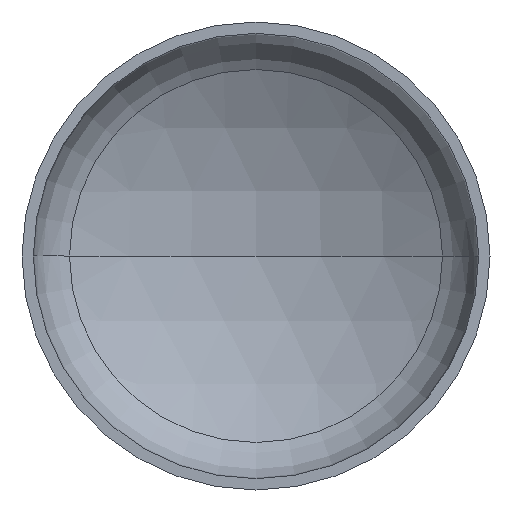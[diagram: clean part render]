
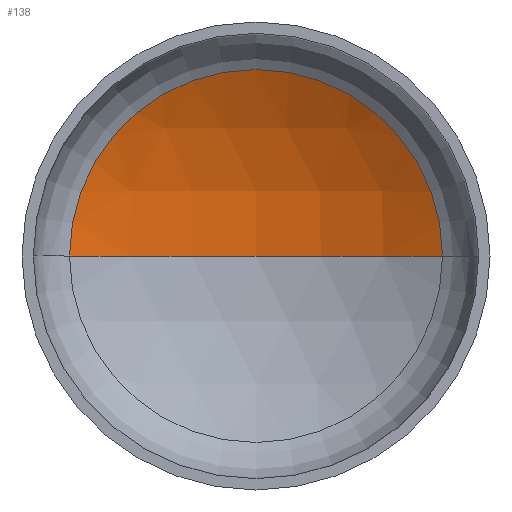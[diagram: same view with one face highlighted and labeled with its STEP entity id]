
A CAD part, front view. The second image highlights one B-rep face of the part: STEP entity #138.
In plain terms, the highlighted spherical face has radius 1920 mm.
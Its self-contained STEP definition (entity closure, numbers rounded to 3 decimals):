
#22 = VERTEX_POINT ( 'NONE', #254 ) ;
#26 = ORIENTED_EDGE ( 'NONE', *, *, #339, .T. ) ;
#28 = AXIS2_PLACEMENT_3D ( 'NONE', #405, #202, #207 ) ;
#35 = AXIS2_PLACEMENT_3D ( 'NONE', #411, #261, #100 ) ;
#40 = AXIS2_PLACEMENT_3D ( 'NONE', #126, #128, #130 ) ;
#66 = VERTEX_POINT ( 'NONE', #287 ) ;
#70 = AXIS2_PLACEMENT_3D ( 'NONE', #195, #188, #233 ) ;
#83 = CIRCLE ( 'NONE', #40, 956.284 ) ;
#100 = DIRECTION ( 'NONE',  ( -1., 0., 0. ) ) ;
#124 = ORIENTED_EDGE ( 'NONE', *, *, #346, .F. ) ;
#126 = CARTESIAN_POINT ( 'NONE',  ( 0., 440.842, 0. ) ) ;
#128 = DIRECTION ( 'NONE',  ( 0., -1., 0. ) ) ;
#130 = DIRECTION ( 'NONE',  ( 1., 0., 0. ) ) ;
#135 = CARTESIAN_POINT ( 'NONE',  ( -956.284, 440.842, 0. ) ) ;
#137 = FACE_OUTER_BOUND ( 'NONE', #239, .T. ) ;
#138 = ADVANCED_FACE ( 'NONE', ( #137 ), #197, .F. ) ;
#163 = CIRCLE ( 'NONE', #35, 1920. ) ;
#188 = DIRECTION ( 'NONE',  ( 0., 0., -1. ) ) ;
#195 = CARTESIAN_POINT ( 'NONE',  ( 0., -1224.067, 0. ) ) ;
#197 = SPHERICAL_SURFACE ( 'NONE', #70, 1920. ) ;
#202 = DIRECTION ( 'NONE',  ( 0., 0., 1. ) ) ;
#207 = DIRECTION ( 'NONE',  ( 1., 0., 0. ) ) ;
#227 = CIRCLE ( 'NONE', #28, 1920. ) ;
#233 = DIRECTION ( 'NONE',  ( -1., 0., 0. ) ) ;
#239 = EDGE_LOOP ( 'NONE', ( #124, #26, #247 ) ) ;
#247 = ORIENTED_EDGE ( 'NONE', *, *, #333, .T. ) ;
#254 = CARTESIAN_POINT ( 'NONE',  ( 0., 695.933, 0. ) ) ;
#261 = DIRECTION ( 'NONE',  ( 0., 0., -1. ) ) ;
#287 = CARTESIAN_POINT ( 'NONE',  ( 956.284, 440.842, 0. ) ) ;
#333 = EDGE_CURVE ( 'NONE', #66, #372, #83, .T. ) ;
#339 = EDGE_CURVE ( 'NONE', #22, #66, #163, .T. ) ;
#346 = EDGE_CURVE ( 'NONE', #22, #372, #227, .T. ) ;
#372 = VERTEX_POINT ( 'NONE', #135 ) ;
#405 = CARTESIAN_POINT ( 'NONE',  ( 0., -1224.067, 0. ) ) ;
#411 = CARTESIAN_POINT ( 'NONE',  ( 0., -1224.067, 0. ) ) ;
